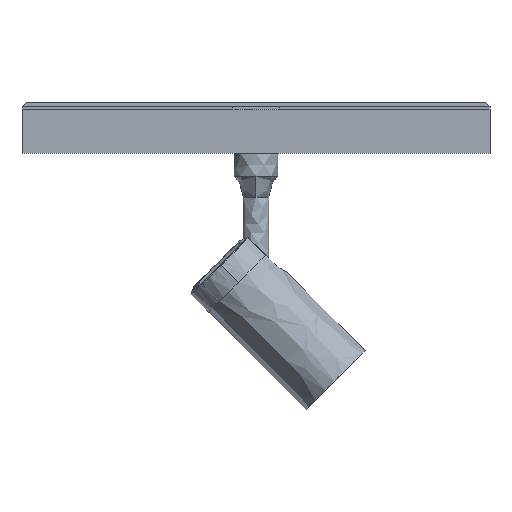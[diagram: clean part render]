
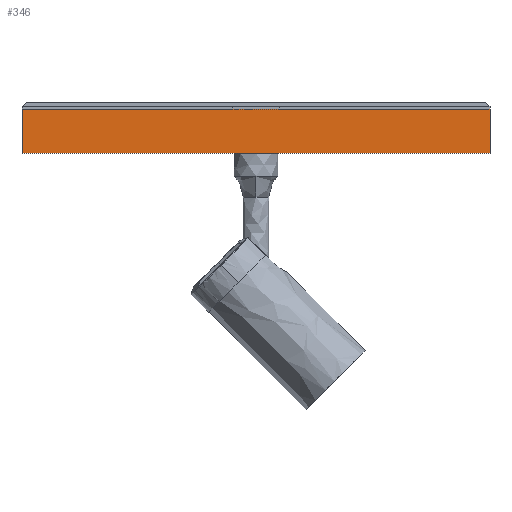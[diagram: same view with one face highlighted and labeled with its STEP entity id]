
A CAD part, front view. The second image highlights one B-rep face of the part: STEP entity #346.
In plain terms, the highlighted planar face has unit normal (0, -1, 0).
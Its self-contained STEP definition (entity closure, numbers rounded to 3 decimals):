
#346=ADVANCED_FACE('',(#653),#4654,.T.);
#653=FACE_OUTER_BOUND('',#980,.T.);
#980=EDGE_LOOP('',(#2446,#2447,#2448,#2449));
#2446=ORIENTED_EDGE('',*,*,#3260,.T.);
#2447=ORIENTED_EDGE('',*,*,#3261,.T.);
#2448=ORIENTED_EDGE('',*,*,#3262,.T.);
#2449=ORIENTED_EDGE('',*,*,#3263,.T.);
#3260=EDGE_CURVE('',#4515,#4516,#3725,.T.);
#3261=EDGE_CURVE('',#4516,#4517,#3726,.T.);
#3262=EDGE_CURVE('',#4517,#4518,#3727,.T.);
#3263=EDGE_CURVE('',#4518,#4515,#3728,.T.);
#3725=B_SPLINE_CURVE_WITH_KNOTS('',1,(#13400,#13401),.UNSPECIFIED.,.F.,
 .F.,(2,2),(0.,168.),.UNSPECIFIED.);
#3726=B_SPLINE_CURVE_WITH_KNOTS('',1,(#13402,#13403),.UNSPECIFIED.,.F.,
 .F.,(2,2),(0.,15.8),.UNSPECIFIED.);
#3727=B_SPLINE_CURVE_WITH_KNOTS('',1,(#13404,#13405),.UNSPECIFIED.,.F.,
 .F.,(2,2),(0.,168.),.UNSPECIFIED.);
#3728=B_SPLINE_CURVE_WITH_KNOTS('',1,(#13406,#13407),.UNSPECIFIED.,.F.,
 .F.,(2,2),(0.,15.8),.UNSPECIFIED.);
#4515=VERTEX_POINT('',#13392);
#4516=VERTEX_POINT('',#13393);
#4517=VERTEX_POINT('',#13394);
#4518=VERTEX_POINT('',#13395);
#4654=PLANE('',#4976);
#4976=AXIS2_PLACEMENT_3D('',#13386,#5096,$);
#5096=DIRECTION('',(0.,-1.,0.));
#13386=CARTESIAN_POINT('',(-122.326,-47.418,222.214));
#13392=CARTESIAN_POINT('',(-105.526,-47.418,204.834));
#13393=CARTESIAN_POINT('',(62.474,-47.418,204.834));
#13394=CARTESIAN_POINT('',(62.474,-47.418,220.634));
#13395=CARTESIAN_POINT('',(-105.526,-47.418,220.634));
#13400=CARTESIAN_POINT('',(-105.526,-47.418,204.834));
#13401=CARTESIAN_POINT('',(62.474,-47.418,204.834));
#13402=CARTESIAN_POINT('',(62.474,-47.418,204.834));
#13403=CARTESIAN_POINT('',(62.474,-47.418,220.634));
#13404=CARTESIAN_POINT('',(62.474,-47.418,220.634));
#13405=CARTESIAN_POINT('',(-105.526,-47.418,220.634));
#13406=CARTESIAN_POINT('',(-105.526,-47.418,220.634));
#13407=CARTESIAN_POINT('',(-105.526,-47.418,204.834));
